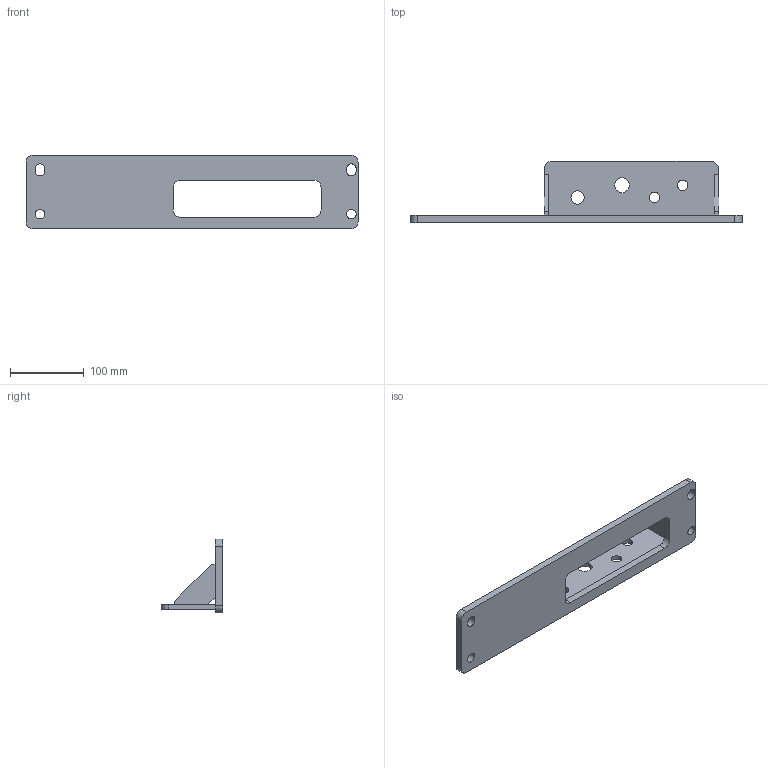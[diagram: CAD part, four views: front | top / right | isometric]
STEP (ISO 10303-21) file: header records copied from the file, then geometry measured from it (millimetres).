
FILE_DESCRIPTION (( 'STEP AP203' ), '1' );
FILE_NAME ('HL-DK-350-1000-1000-03 蚐諳盓殤.STEP', '2026-05-11T10:55:58', ( 'Windows 蚚誧' ), ( '' ), 'SwSTEP 2.0', 'SolidWorks 2020', '' );
FILE_SCHEMA (( 'CONFIG_CONTROL_DESIGN' ));
Length unit declared in the file: millimetre
Products named in the file (1): HL-DK-350-1000-1000-03 蚐諳盓殤
Bounding box: 449 x 82.55 x 100 mm (x, y, z)
Volume: 460778.4 mm3; surface area: 132374.2 mm2
Topology: 4 solids, 4 shells, 62 faces, 162 edges, 108 vertices
Faces by surface type: plane 36, cylinder 26
Entity records: 2025 total; most frequent: DIRECTION 340, CARTESIAN_POINT 333, ORIENTED_EDGE 324, EDGE_CURVE 162, AXIS2_PLACEMENT_3D 115, VECTOR 110, LINE 110, VERTEX_POINT 108
